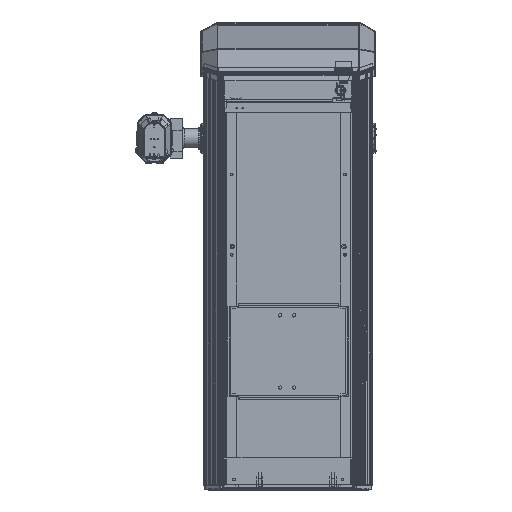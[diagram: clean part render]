
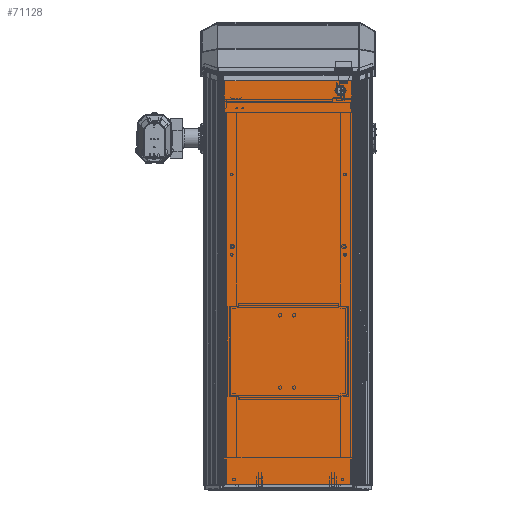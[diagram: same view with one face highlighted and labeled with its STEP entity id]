
A CAD part, left-side view. The second image highlights one B-rep face of the part: STEP entity #71128.
In plain terms, the highlighted planar face has unit normal (-1, 0, 0) as drawn and (0, 1, 0) by its records, which use the part's own axes.
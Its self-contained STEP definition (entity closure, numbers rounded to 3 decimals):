
#9765=LINE('',#132566,#16231);
#9769=LINE('',#132575,#16235);
#9775=LINE('',#132589,#16241);
#9779=LINE('',#132598,#16245);
#9787=LINE('',#132619,#16253);
#9788=LINE('',#132624,#16254);
#9789=LINE('',#132627,#16255);
#9790=LINE('',#132628,#16256);
#9791=LINE('',#132629,#16257);
#9792=LINE('',#132630,#16258);
#16231=VECTOR('',#104185,1000.);
#16235=VECTOR('',#104191,1000.);
#16241=VECTOR('',#104199,1000.);
#16245=VECTOR('',#104205,1000.);
#16253=VECTOR('',#104225,1000.);
#16254=VECTOR('',#104228,1000.);
#16255=VECTOR('',#104231,1000.);
#16256=VECTOR('',#104232,1000.);
#16257=VECTOR('',#104233,1000.);
#16258=VECTOR('',#104234,1000.);
#35392=ORIENTED_EDGE('',*,*,#45931,.T.);
#35393=ORIENTED_EDGE('',*,*,#45932,.F.);
#35394=ORIENTED_EDGE('',*,*,#45933,.F.);
#35395=ORIENTED_EDGE('',*,*,#45934,.F.);
#35396=ORIENTED_EDGE('',*,*,#45935,.F.);
#35397=ORIENTED_EDGE('',*,*,#45916,.F.);
#35398=ORIENTED_EDGE('',*,*,#45936,.T.);
#35399=ORIENTED_EDGE('',*,*,#45910,.F.);
#35400=ORIENTED_EDGE('',*,*,#45937,.T.);
#35401=ORIENTED_EDGE('',*,*,#45906,.F.);
#35402=ORIENTED_EDGE('',*,*,#45938,.T.);
#35403=ORIENTED_EDGE('',*,*,#45920,.F.);
#35404=ORIENTED_EDGE('',*,*,#45939,.T.);
#45906=EDGE_CURVE('',#52709,#52710,#9765,.T.);
#45910=EDGE_CURVE('',#52713,#52714,#9769,.T.);
#45916=EDGE_CURVE('',#52719,#52720,#9775,.T.);
#45920=EDGE_CURVE('',#52723,#52724,#9779,.T.);
#45931=EDGE_CURVE('',#52730,#52730,#55410,.T.);
#45932=EDGE_CURVE('',#52731,#52732,#9787,.T.);
#45933=EDGE_CURVE('',#52733,#52731,#55411,.T.);
#45934=EDGE_CURVE('',#52734,#52733,#9788,.T.);
#45935=EDGE_CURVE('',#52732,#52734,#55412,.T.);
#45936=EDGE_CURVE('',#52719,#52714,#9789,.F.);
#45937=EDGE_CURVE('',#52713,#52710,#9790,.F.);
#45938=EDGE_CURVE('',#52709,#52724,#9791,.F.);
#45939=EDGE_CURVE('',#52723,#52720,#9792,.F.);
#52709=VERTEX_POINT('',#132567);
#52710=VERTEX_POINT('',#132568);
#52713=VERTEX_POINT('',#132576);
#52714=VERTEX_POINT('',#132577);
#52719=VERTEX_POINT('',#132588);
#52720=VERTEX_POINT('',#132590);
#52723=VERTEX_POINT('',#132597);
#52724=VERTEX_POINT('',#132599);
#52730=VERTEX_POINT('',#132618);
#52731=VERTEX_POINT('',#132620);
#52732=VERTEX_POINT('',#132621);
#52733=VERTEX_POINT('',#132623);
#52734=VERTEX_POINT('',#132625);
#55410=CIRCLE('',#85041,1.75);
#55411=CIRCLE('',#85042,10.);
#55412=CIRCLE('',#85043,10.);
#60041=EDGE_LOOP('',(#35392));
#60042=EDGE_LOOP('',(#35393,#35394,#35395,#35396));
#60043=EDGE_LOOP('',(#35397,#35398,#35399,#35400,#35401,#35402,#35403,#35404));
#64836=FACE_BOUND('',#60041,.T.);
#64837=FACE_BOUND('',#60042,.T.);
#64838=FACE_BOUND('',#60043,.T.);
#67212=PLANE('',#85040);
#71128=ADVANCED_FACE('',(#64836,#64837,#64838),#67212,.F.);
#85040=AXIS2_PLACEMENT_3D('',#132616,#104221,#104222);
#85041=AXIS2_PLACEMENT_3D('',#132617,#104223,#104224);
#85042=AXIS2_PLACEMENT_3D('',#132622,#104226,#104227);
#85043=AXIS2_PLACEMENT_3D('',#132626,#104229,#104230);
#104185=DIRECTION('',(0.,0.,-1.));
#104191=DIRECTION('',(1.,0.,0.));
#104199=DIRECTION('',(0.,0.,1.));
#104205=DIRECTION('',(-1.,0.,0.));
#104221=DIRECTION('',(0.,-1.,0.));
#104222=DIRECTION('',(0.,0.,-1.));
#104223=DIRECTION('',(0.,-1.,0.));
#104224=DIRECTION('',(0.,0.,-1.));
#104225=DIRECTION('',(0.,0.,1.));
#104226=DIRECTION('',(0.,1.,0.));
#104227=DIRECTION('',(1.,0.,0.));
#104228=DIRECTION('',(0.,0.,-1.));
#104229=DIRECTION('',(0.,1.,0.));
#104230=DIRECTION('',(1.,0.,0.));
#104231=DIRECTION('',(0.707,0.,0.707));
#104232=DIRECTION('',(0.707,0.,-0.707));
#104233=DIRECTION('',(-0.707,0.,-0.707));
#104234=DIRECTION('',(-0.707,0.,0.707));
#132566=CARTESIAN_POINT('',(-167.5,0.,1019.));
#132567=CARTESIAN_POINT('',(-167.5,0.,1017.));
#132568=CARTESIAN_POINT('',(-167.5,0.,2.));
#132575=CARTESIAN_POINT('',(-167.5,0.,0.));
#132576=CARTESIAN_POINT('',(-165.5,0.,0.));
#132577=CARTESIAN_POINT('',(165.5,0.,0.));
#132588=CARTESIAN_POINT('',(167.5,0.,2.));
#132589=CARTESIAN_POINT('',(167.5,0.,0.));
#132590=CARTESIAN_POINT('',(167.5,0.,1017.));
#132597=CARTESIAN_POINT('',(165.5,0.,1019.));
#132598=CARTESIAN_POINT('',(167.5,0.,1019.));
#132599=CARTESIAN_POINT('',(-165.5,0.,1019.));
#132616=CARTESIAN_POINT('',(-167.5,0.,0.));
#132617=CARTESIAN_POINT('',(162.5,0.,1014.));
#132618=CARTESIAN_POINT('',(162.5,0.,1012.25));
#132619=CARTESIAN_POINT('',(121.,0.,34.541));
#132620=CARTESIAN_POINT('',(121.,0.,34.541));
#132621=CARTESIAN_POINT('',(121.,0.,43.259));
#132622=CARTESIAN_POINT('',(130.,0.,38.9));
#132623=CARTESIAN_POINT('',(139.,0.,34.541));
#132624=CARTESIAN_POINT('',(139.,0.,34.541));
#132625=CARTESIAN_POINT('',(139.,0.,43.259));
#132626=CARTESIAN_POINT('',(130.,0.,38.9));
#132627=CARTESIAN_POINT('',(167.5,0.,2.));
#132628=CARTESIAN_POINT('',(-165.5,0.,0.));
#132629=CARTESIAN_POINT('',(-167.5,0.,1017.));
#132630=CARTESIAN_POINT('',(165.5,0.,1019.));
